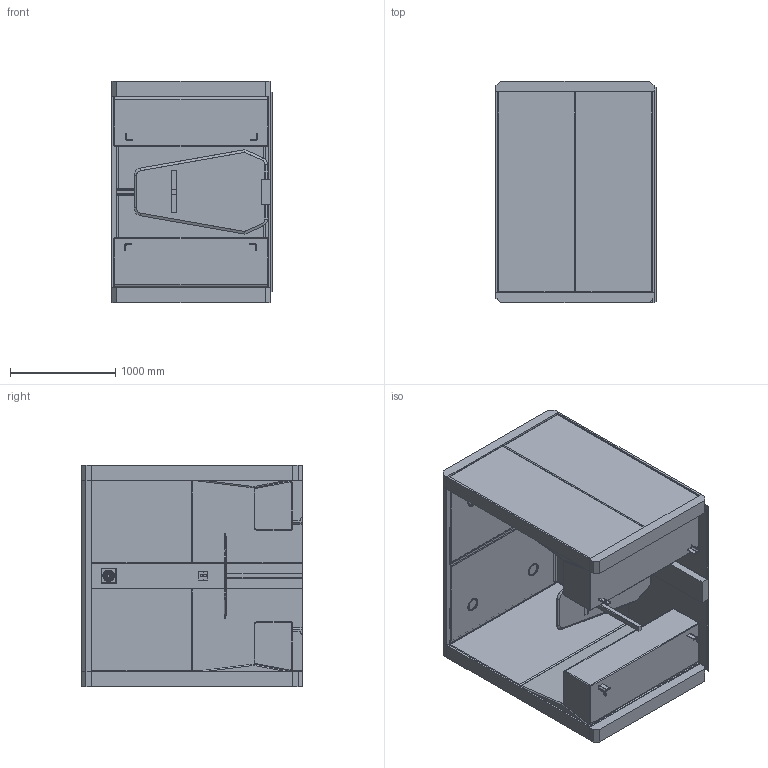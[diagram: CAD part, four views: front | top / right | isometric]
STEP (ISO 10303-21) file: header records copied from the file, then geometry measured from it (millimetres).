
FILE_DESCRIPTION(/* description */ (''),/* implementation_level */ '2;1');
FILE_NAME(/* name */ 'C:\Users\Tom Dunford\OneDrive - The Meeting Pod Company\Desktop\Design Projects\DESIGN\Projects\Meeting Box\DWG''s\Part enclosed.stp',/* time_stamp */ '2023-03-15T08:56:13+00:00',/* author */ ('Tom Dunford'),/* organization */ (''),/* preprocessor_version */ 'ST-DEVELOPER v18.1',/* originating_system */ 'Autodesk Inventor 2021',/* authorisation */ '');
FILE_SCHEMA (('AUTOMOTIVE_DESIGN { 1 0 10303 214 3 1 1 }'));
Length unit declared in the file: millimetre
Products named in the file (11): Part enclosed; Open Ring; upholstery kit; open meeting box framework; cushion; latest ceiling; Latest back panel; Back Panel central core; Latest back panel_1; Ethernet module; Table BP
Assembly tree (12 placements, depth 3):
  Part enclosed
    Open Ring
      upholstery kit  x2
      open meeting box framework
      cushion  x2
      latest ceiling
    Latest back panel
      Back Panel central core
      Latest back panel_1
      Ethernet module
    Table BP
Bounding box: 1518 x 2100 x 2100 mm (x, y, z)
Volume: 1480237314.6 mm3; surface area: 63029797.5 mm2
Topology: 71 solids, 71 shells, 873 faces, 1904 edges, 1177 vertices
Faces by surface type: plane 514, cylinder 250, sphere 40, torus 36, cone 25, bspline 8
Full cylindrical faces by diameter (mm): 4 x2, 26 x1, 30 x1, 32 x1, 36 x1, 38 x1, 42 x1, 44 x1, 48 x1, 50 x1, 54 x1, 56 x1, 60 x1, 62 x1, 66 x1, 68 x1, 72 x1, 74 x1, 78 x1, 80 x1, 84 x1, 86 x1, 90 x1, 92 x1, 96 x1, 98 x1, 102 x1, 105 x12, 130 x4
Entity records: 19464 total; most frequent: DIRECTION 3371, CARTESIAN_POINT 3231, ORIENTED_EDGE 3028, EDGE_CURVE 1514, AXIS2_PLACEMENT_3D 1143, LINE 1085, VECTOR 1085, VERTEX_POINT 949
